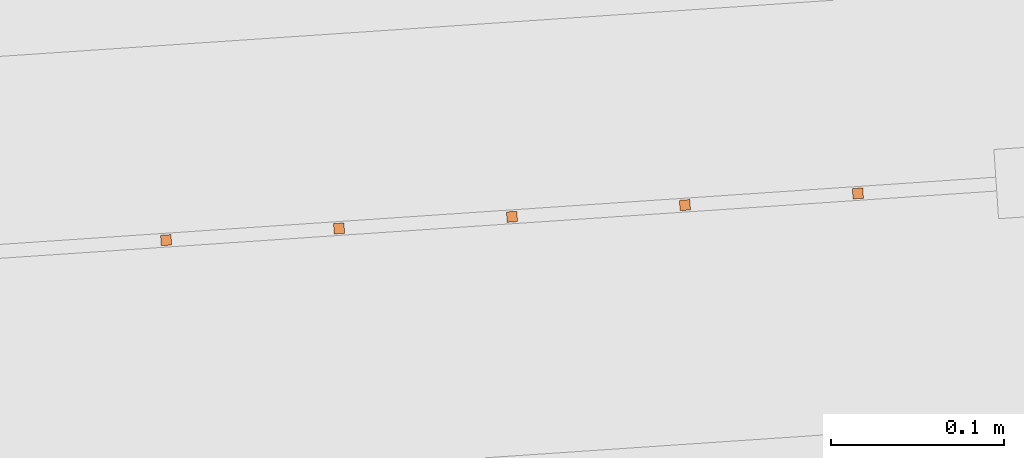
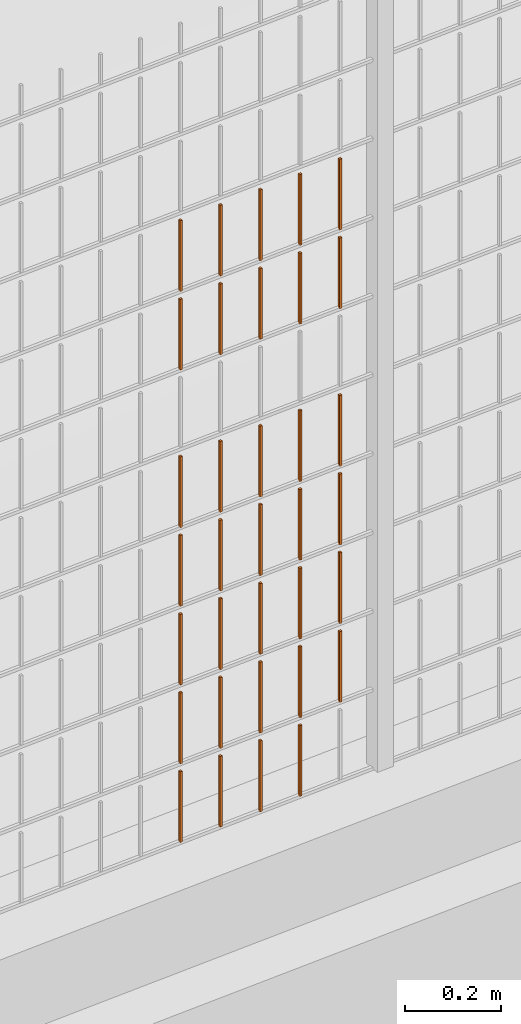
# One storey, part 173 of 1809: 34 proxies, 1 element without a shape of its own.
"""IFC2X3 building model written with IfcOpenShell, lengths in millimetres."""

from ifc_helpers import new_model, entity, si_unit, converted_unit, derived_unit, money_unit, direction, frame, origin_with_axes, place, context, subcontext, project, spatial, faceted_brep, source, transform, mapped, material, type_object, element, aggregate, save


model = new_model("IFC2X3")

# Units and contexts
model_context = context("Model", 3, precision=0.01, world=origin_with_axes(), true_north=direction((0.0, 1.0)))
body_context = subcontext(model_context, "Body", "Model", "MODEL_VIEW")
ifc_project = project(units=[si_unit("LENGTHUNIT", "METRE", prefix="MILLI"), si_unit("AREAUNIT", "SQUARE_METRE"), si_unit("VOLUMEUNIT", "CUBIC_METRE"), converted_unit("PLANEANGLEUNIT", "DEGREE", entity("IfcPlaneAngleMeasure", 0.0174532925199), si_unit("PLANEANGLEUNIT", "RADIAN"), dimensions=[0, 0, 0, 0, 0, 0, 0]), si_unit("SOLIDANGLEUNIT", "STERADIAN"), money_unit("EUR"), converted_unit("TIMEUNIT", "Year", entity("IfcTimeMeasure", 31556926.0), si_unit("TIMEUNIT", "SECOND"), dimensions=[0, 0, 1, 0, 0, 0, 0]), si_unit("MASSUNIT", "GRAM", prefix="KILO"), si_unit("THERMODYNAMICTEMPERATUREUNIT", "DEGREE_CELSIUS"), si_unit("LUMINOUSINTENSITYUNIT", "LUMEN"), si_unit("ENERGYUNIT", "JOULE", prefix="MEGA"), derived_unit("THERMALCONDUCTANCEUNIT", [(si_unit("POWERUNIT", "WATT"), 1), (si_unit("LENGTHUNIT", "METRE"), -1), (si_unit("THERMODYNAMICTEMPERATUREUNIT", "KELVIN"), -1)]), derived_unit("SPECIFICHEATCAPACITYUNIT", [(si_unit("ENERGYUNIT", "JOULE"), 1), (si_unit("MASSUNIT", "GRAM", prefix="KILO"), -1), (si_unit("THERMODYNAMICTEMPERATUREUNIT", "KELVIN"), -1)]), derived_unit("MASSDENSITYUNIT", [(si_unit("MASSUNIT", "GRAM", prefix="KILO"), 1), (si_unit("VOLUMEUNIT", "CUBIC_METRE"), -1)])], contexts=[model_context])

# Site, building, storey
site_placement = place(None, origin_with_axes())
site = spatial("IfcSite", under=ifc_project, at=site_placement, Name="Politse- ja Piirivalveameti ning Päästeameti ühishoone", CompositionType="ELEMENT")
building_placement = place(site_placement, origin_with_axes())
building = spatial("IfcBuilding", under=site, at=building_placement, Name="Politse- ja Piirivalveameti ning Päästeameti ühishoone", CompositionType="ELEMENT")
storey_placement = place(building_placement, origin_with_axes())
storey = spatial("IfcBuildingStorey", under=building, at=storey_placement, Name="Esimene korrus", CompositionType="ELEMENT", Elevation=0.0)

# Proxies
building_element_proxy_type_1 = type_object("IfcBuildingElementProxyType", Name="Railing Type", PredefinedType="NOTDEFINED")
proxy_1_placement = place(storey_placement, frame((89252.001212, -29183.4766571, 203.661247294), z_axis=(0.0, 0.0, 1.0), x_axis=(1.0, 0.0, 0.0)))
proxy_1 = element("IfcBuildingElementProxy", 1, at=proxy_1_placement, inside=storey, type_object=building_element_proxy_type_1, Name="PIIRDEAED")
ifc_material = material(Name="ET-03_Raud")
building_element_proxy_type_2 = type_object("IfcBuildingElementProxyType", Name="IfcBuildingElementProxy", PredefinedType="NOTDEFINED")
shared_shape_1 = source(origin_with_axes(), body_context, "Body", "Brep", [
    faceted_brep([(3.0, 3.0, -0.000752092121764), (-3.0, 3.0, -0.000752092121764), (-3.0, 3.0, 179.99926046), (3.0, 3.0, 179.99926046), (3.0, -3.0, 0.000752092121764), (-3.0, -3.0, 0.000752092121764), (-3.0, -3.0, 180.000764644), (3.0, -3.0, 180.000764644)], [[[0, 1, 2, 3]], [[0, 4, 5, 1]], [[1, 5, 6, 2]], [[3, 2, 6, 7]], [[4, 0, 3, 7]], [[5, 4, 7, 6]]]),
])
proxy_2_placement = place(proxy_1_placement, frame((-74756.3444096, -22347.2837062, 1208.4504616), z_axis=(0.0, 0.0, 1.0), x_axis=(1.0, 0.0, 0.0)))
proxy_2 = element("IfcBuildingElementProxy", 2, at=proxy_2_placement, type_object=building_element_proxy_type_2, material=ifc_material, Name="BALUSTER - 001", context=body_context, shape_type="MappedRepresentation", body=[
    mapped(shared_shape_1, transform((0.0, 0.0, 0.0), x_axis=(-0.0673926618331, 0.997726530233, 0.0), y_axis=(-0.997726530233, -0.0673926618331, 0.0), z_axis=(0.0, 0.0, 1.0))),
])
shared_shape_2 = source(origin_with_axes(), body_context, "Body", "Brep", [
    faceted_brep([(3.0, 3.0, -0.000752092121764), (-3.0, 3.0, -0.000752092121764), (-3.0, 3.0, 179.99926046), (3.0, 3.0, 179.99926046), (3.0, -3.0, 0.000752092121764), (-3.0, -3.0, 0.000752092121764), (-3.0, -3.0, 180.000764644), (3.0, -3.0, 180.000764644)], [[[0, 1, 2, 3]], [[0, 4, 5, 1]], [[1, 5, 6, 2]], [[3, 2, 6, 7]], [[4, 0, 3, 7]], [[5, 4, 7, 6]]]),
])
proxy_3_placement = place(proxy_1_placement, frame((-74756.3444096, -22347.2837062, 808.4504616), z_axis=(0.0, 0.0, 1.0), x_axis=(1.0, 0.0, 0.0)))
proxy_3 = element("IfcBuildingElementProxy", 3, at=proxy_3_placement, type_object=building_element_proxy_type_2, material=ifc_material, Name="BALUSTER - 001", context=body_context, shape_type="MappedRepresentation", body=[
    mapped(shared_shape_2, transform((0.0, 0.0, 0.0), x_axis=(-0.0673926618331, 0.997726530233, 0.0), y_axis=(-0.997726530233, -0.0673926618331, 0.0), z_axis=(0.0, 0.0, 1.0))),
])
proxy_4_placement = place(proxy_1_placement, frame((-74955.8897157, -22360.7622386, 1208.40032212), z_axis=(0.0, 0.0, 1.0), x_axis=(1.0, 0.0, 0.0)))
proxy_4 = element("IfcBuildingElementProxy", 4, at=proxy_4_placement, type_object=building_element_proxy_type_2, material=ifc_material, Name="BALUSTER - 001", context=body_context, shape_type="MappedRepresentation", body=[
    mapped(shared_shape_2, transform((0.0, 0.0, 0.0), x_axis=(-0.0673926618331, 0.997726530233, 0.0), y_axis=(-0.997726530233, -0.0673926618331, 0.0), z_axis=(0.0, 0.0, 1.0))),
])
shared_shape_3 = source(origin_with_axes(), body_context, "Body", "Brep", [
    faceted_brep([(3.0, 3.0, -0.000752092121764), (-3.0, 3.0, -0.000752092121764), (-3.0, 3.0, 179.99926046), (3.0, 3.0, 179.99926046), (3.0, -3.0, 0.000752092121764), (-3.0, -3.0, 0.000752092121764), (-3.0, -3.0, 180.000764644), (3.0, -3.0, 180.000764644)], [[[0, 1, 2, 3]], [[0, 4, 5, 1]], [[1, 5, 6, 2]], [[3, 2, 6, 7]], [[4, 0, 3, 7]], [[5, 4, 7, 6]]]),
])
proxy_5_placement = place(proxy_1_placement, frame((-74756.3444096, -22347.2837062, 208.4504616), z_axis=(0.0, 0.0, 1.0), x_axis=(1.0, 0.0, 0.0)))
proxy_5 = element("IfcBuildingElementProxy", 5, at=proxy_5_placement, type_object=building_element_proxy_type_2, material=ifc_material, Name="BALUSTER - 001", context=body_context, shape_type="MappedRepresentation", body=[
    mapped(shared_shape_3, transform((0.0, 0.0, 0.0), x_axis=(-0.0673926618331, 0.997726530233, 0.0), y_axis=(-0.997726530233, -0.0673926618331, 0.0), z_axis=(0.0, 0.0, 1.0))),
])
proxy_6_placement = place(proxy_1_placement, frame((-74756.3444096, -22347.2837062, 408.4504616), z_axis=(0.0, 0.0, 1.0), x_axis=(1.0, 0.0, 0.0)))
proxy_6 = element("IfcBuildingElementProxy", 6, at=proxy_6_placement, type_object=building_element_proxy_type_2, material=ifc_material, Name="BALUSTER - 001", context=body_context, shape_type="MappedRepresentation", body=[
    mapped(shared_shape_3, transform((0.0, 0.0, 0.0), x_axis=(-0.0673926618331, 0.997726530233, 0.0), y_axis=(-0.997726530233, -0.0673926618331, 0.0), z_axis=(0.0, 0.0, 1.0))),
])
shared_shape_4 = source(origin_with_axes(), body_context, "Body", "Brep", [
    faceted_brep([(3.0, 3.0, -0.000752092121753), (-3.0, 3.0, -0.000752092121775), (-3.0, 3.0, 179.99926046), (3.0, 3.0, 179.99926046), (3.0, -3.0, 0.000752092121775), (-3.0, -3.0, 0.000752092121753), (-3.0, -3.0, 180.000764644), (3.0, -3.0, 180.000764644)], [[[0, 1, 2, 3]], [[0, 4, 5, 1]], [[1, 5, 6, 2]], [[3, 2, 6, 7]], [[4, 0, 3, 7]], [[5, 4, 7, 6]]]),
])
proxy_7_placement = place(proxy_1_placement, frame((-75055.6623687, -22367.5015048, 8.37525238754), z_axis=(0.0, 0.0, 1.0), x_axis=(1.0, 0.0, 0.0)))
proxy_7 = element("IfcBuildingElementProxy", 7, at=proxy_7_placement, type_object=building_element_proxy_type_2, material=ifc_material, Name="BALUSTER - 001", context=body_context, shape_type="MappedRepresentation", body=[
    mapped(shared_shape_4, transform((0.0, 0.0, 0.0), x_axis=(-0.0673926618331, 0.997726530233, 0.0), y_axis=(-0.997726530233, -0.0673926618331, 0.0), z_axis=(0.0, 0.0, 1.0))),
])
shared_shape_5 = source(origin_with_axes(), body_context, "Body", "Brep", [
    faceted_brep([(3.0, 3.0, -0.000752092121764), (-3.0, 3.0, -0.000752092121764), (-3.0, 3.0, 179.99926046), (3.0, 3.0, 179.99926046), (3.0, -3.0, 0.000752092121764), (-3.0, -3.0, 0.000752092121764), (-3.0, -3.0, 180.000764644), (3.0, -3.0, 180.000764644)], [[[0, 1, 2, 3]], [[0, 4, 5, 1]], [[1, 5, 6, 2]], [[3, 2, 6, 7]], [[4, 0, 3, 7]], [[5, 4, 7, 6]]]),
])
proxy_8_placement = place(proxy_1_placement, frame((-75155.4350217, -22374.2407709, 8.35018265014), z_axis=(0.0, 0.0, 1.0), x_axis=(1.0, 0.0, 0.0)))
proxy_8 = element("IfcBuildingElementProxy", 8, at=proxy_8_placement, type_object=building_element_proxy_type_2, material=ifc_material, Name="BALUSTER - 001", context=body_context, shape_type="MappedRepresentation", body=[
    mapped(shared_shape_5, transform((0.0, 0.0, 0.0), x_axis=(-0.0673926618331, 0.997726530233, 0.0), y_axis=(-0.997726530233, -0.0673926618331, 0.0), z_axis=(0.0, 0.0, 1.0))),
])
shared_shape_6 = source(origin_with_axes(), body_context, "Body", "Brep", [
    faceted_brep([(3.0, 3.0, -0.000752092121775), (-3.0, 3.0, -0.000752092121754), (-3.0, 3.0, 179.99926046), (3.0, 3.0, 179.99926046), (3.0, -3.0, 0.000752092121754), (-3.0, -3.0, 0.000752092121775), (-3.0, -3.0, 180.000764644), (3.0, -3.0, 180.000764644)], [[[0, 1, 2, 3]], [[0, 4, 5, 1]], [[1, 5, 6, 2]], [[3, 2, 6, 7]], [[4, 0, 3, 7]], [[5, 4, 7, 6]]]),
])
proxy_9_placement = place(proxy_1_placement, frame((-74856.1170627, -22354.0229724, 408.425391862), z_axis=(0.0, 0.0, 1.0), x_axis=(1.0, 0.0, 0.0)))
proxy_9 = element("IfcBuildingElementProxy", 9, at=proxy_9_placement, type_object=building_element_proxy_type_2, material=ifc_material, Name="BALUSTER - 001", context=body_context, shape_type="MappedRepresentation", body=[
    mapped(shared_shape_6, transform((0.0, 0.0, 0.0), x_axis=(-0.0673926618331, 0.997726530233, 0.0), y_axis=(-0.997726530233, -0.0673926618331, 0.0), z_axis=(0.0, 0.0, 1.0))),
])
proxy_10_placement = place(proxy_1_placement, frame((-74856.1170627, -22354.0229724, 608.425391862), z_axis=(0.0, 0.0, 1.0), x_axis=(1.0, 0.0, 0.0)))
proxy_10 = element("IfcBuildingElementProxy", 10, at=proxy_10_placement, type_object=building_element_proxy_type_2, material=ifc_material, Name="BALUSTER - 001", context=body_context, shape_type="MappedRepresentation", body=[
    mapped(shared_shape_6, transform((0.0, 0.0, 0.0), x_axis=(-0.0673926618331, 0.997726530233, 0.0), y_axis=(-0.997726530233, -0.0673926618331, 0.0), z_axis=(0.0, 0.0, 1.0))),
])
shared_shape_7 = source(origin_with_axes(), body_context, "Body", "Brep", [
    faceted_brep([(3.0, 3.0, -0.000752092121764), (-3.0, 3.0, -0.000752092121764), (-3.0, 3.0, 179.99926046), (3.0, 3.0, 179.99926046), (3.0, -3.0, 0.000752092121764), (-3.0, -3.0, 0.000752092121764), (-3.0, -3.0, 180.000764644), (3.0, -3.0, 180.000764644)], [[[0, 1, 2, 3]], [[0, 4, 5, 1]], [[1, 5, 6, 2]], [[3, 2, 6, 7]], [[4, 0, 3, 7]], [[5, 4, 7, 6]]]),
])
proxy_11_placement = place(proxy_1_placement, frame((-75155.4350217, -22374.2407709, 408.35018265), z_axis=(0.0, 0.0, 1.0), x_axis=(1.0, 0.0, 0.0)))
proxy_11 = element("IfcBuildingElementProxy", 11, at=proxy_11_placement, type_object=building_element_proxy_type_2, material=ifc_material, Name="BALUSTER - 001", context=body_context, shape_type="MappedRepresentation", body=[
    mapped(shared_shape_7, transform((0.0, 0.0, 0.0), x_axis=(-0.0673926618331, 0.997726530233, 0.0), y_axis=(-0.997726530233, -0.0673926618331, 0.0), z_axis=(0.0, 0.0, 1.0))),
])
shared_shape_8 = source(origin_with_axes(), body_context, "Body", "Brep", [
    faceted_brep([(3.0, 3.0, -0.000752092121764), (-3.0, 3.0, -0.000752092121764), (-3.0, 3.0, 179.99926046), (3.0, 3.0, 179.99926046), (3.0, -3.0, 0.000752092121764), (-3.0, -3.0, 0.000752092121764), (-3.0, -3.0, 180.000764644), (3.0, -3.0, 180.000764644)], [[[0, 1, 2, 3]], [[0, 4, 5, 1]], [[1, 5, 6, 2]], [[3, 2, 6, 7]], [[4, 0, 3, 7]], [[5, 4, 7, 6]]]),
])
proxy_12_placement = place(proxy_1_placement, frame((-75155.4350217, -22374.2407709, 208.35018265), z_axis=(0.0, 0.0, 1.0), x_axis=(1.0, 0.0, 0.0)))
proxy_12 = element("IfcBuildingElementProxy", 12, at=proxy_12_placement, type_object=building_element_proxy_type_2, material=ifc_material, Name="BALUSTER - 001", context=body_context, shape_type="MappedRepresentation", body=[
    mapped(shared_shape_8, transform((0.0, 0.0, 0.0), x_axis=(-0.0673926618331, 0.997726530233, 0.0), y_axis=(-0.997726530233, -0.0673926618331, 0.0), z_axis=(0.0, 0.0, 1.0))),
])
shared_shape_9 = source(origin_with_axes(), body_context, "Body", "Brep", [
    faceted_brep([(3.0, 3.0, -0.000752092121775), (-3.0, 3.0, -0.000752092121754), (-3.0, 3.0, 179.99926046), (3.0, 3.0, 179.99926046), (3.0, -3.0, 0.000752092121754), (-3.0, -3.0, 0.000752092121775), (-3.0, -3.0, 180.000764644), (3.0, -3.0, 180.000764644)], [[[0, 1, 2, 3]], [[0, 4, 5, 1]], [[1, 5, 6, 2]], [[3, 2, 6, 7]], [[4, 0, 3, 7]], [[5, 4, 7, 6]]]),
])
proxy_13_placement = place(proxy_1_placement, frame((-74856.1170627, -22354.0229724, 208.425391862), z_axis=(0.0, 0.0, 1.0), x_axis=(1.0, 0.0, 0.0)))
proxy_13 = element("IfcBuildingElementProxy", 13, at=proxy_13_placement, type_object=building_element_proxy_type_2, material=ifc_material, Name="BALUSTER - 001", context=body_context, shape_type="MappedRepresentation", body=[
    mapped(shared_shape_9, transform((0.0, 0.0, 0.0), x_axis=(-0.0673926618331, 0.997726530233, 0.0), y_axis=(-0.997726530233, -0.0673926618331, 0.0), z_axis=(0.0, 0.0, 1.0))),
])
shared_shape_10 = source(origin_with_axes(), body_context, "Body", "Brep", [
    faceted_brep([(3.0, 3.0, -0.000752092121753), (-3.0, 3.0, -0.000752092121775), (-3.0, 3.0, 179.99926046), (3.0, 3.0, 179.99926046), (3.0, -3.0, 0.000752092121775), (-3.0, -3.0, 0.000752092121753), (-3.0, -3.0, 180.000764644), (3.0, -3.0, 180.000764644)], [[[0, 1, 2, 3]], [[0, 4, 5, 1]], [[1, 5, 6, 2]], [[3, 2, 6, 7]], [[4, 0, 3, 7]], [[5, 4, 7, 6]]]),
])
proxy_14_placement = place(proxy_1_placement, frame((-75055.6623687, -22367.5015048, 408.375252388), z_axis=(0.0, 0.0, 1.0), x_axis=(1.0, 0.0, 0.0)))
proxy_14 = element("IfcBuildingElementProxy", 14, at=proxy_14_placement, type_object=building_element_proxy_type_2, material=ifc_material, Name="BALUSTER - 001", context=body_context, shape_type="MappedRepresentation", body=[
    mapped(shared_shape_10, transform((0.0, 0.0, 0.0), x_axis=(-0.0673926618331, 0.997726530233, 0.0), y_axis=(-0.997726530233, -0.0673926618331, 0.0), z_axis=(0.0, 0.0, 1.0))),
])
shared_shape_11 = source(origin_with_axes(), body_context, "Body", "Brep", [
    faceted_brep([(3.0, 3.0, -0.000752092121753), (-3.0, 3.0, -0.000752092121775), (-3.0, 3.0, 179.99926046), (3.0, 3.0, 179.99926046), (3.0, -3.0, 0.000752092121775), (-3.0, -3.0, 0.000752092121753), (-3.0, -3.0, 180.000764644), (3.0, -3.0, 180.000764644)], [[[0, 1, 2, 3]], [[0, 4, 5, 1]], [[1, 5, 6, 2]], [[3, 2, 6, 7]], [[4, 0, 3, 7]], [[5, 4, 7, 6]]]),
])
proxy_15_placement = place(proxy_1_placement, frame((-74955.8897157, -22360.7622386, 808.400322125), z_axis=(0.0, 0.0, 1.0), x_axis=(1.0, 0.0, 0.0)))
proxy_15 = element("IfcBuildingElementProxy", 15, at=proxy_15_placement, type_object=building_element_proxy_type_2, material=ifc_material, Name="BALUSTER - 001", context=body_context, shape_type="MappedRepresentation", body=[
    mapped(shared_shape_11, transform((0.0, 0.0, 0.0), x_axis=(-0.0673926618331, 0.997726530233, 0.0), y_axis=(-0.997726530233, -0.0673926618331, 0.0), z_axis=(0.0, 0.0, 1.0))),
])
proxy_16_placement = place(proxy_1_placement, frame((-75055.6623687, -22367.5015048, 1208.37525239), z_axis=(0.0, 0.0, 1.0), x_axis=(1.0, 0.0, 0.0)))
proxy_16 = element("IfcBuildingElementProxy", 16, at=proxy_16_placement, type_object=building_element_proxy_type_2, material=ifc_material, Name="BALUSTER - 001", context=body_context, shape_type="MappedRepresentation", body=[
    mapped(shared_shape_11, transform((0.0, 0.0, 0.0), x_axis=(-0.0673926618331, 0.997726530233, 0.0), y_axis=(-0.997726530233, -0.0673926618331, 0.0), z_axis=(0.0, 0.0, 1.0))),
])
shared_shape_12 = source(origin_with_axes(), body_context, "Body", "Brep", [
    faceted_brep([(3.0, 3.0, -0.000752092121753), (-3.0, 3.0, -0.000752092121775), (-3.0, 3.0, 179.99926046), (3.0, 3.0, 179.99926046), (3.0, -3.0, 0.000752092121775), (-3.0, -3.0, 0.000752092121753), (-3.0, -3.0, 180.000764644), (3.0, -3.0, 180.000764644)], [[[0, 1, 2, 3]], [[0, 4, 5, 1]], [[1, 5, 6, 2]], [[3, 2, 6, 7]], [[4, 0, 3, 7]], [[5, 4, 7, 6]]]),
])
proxy_17_placement = place(proxy_1_placement, frame((-75055.6623687, -22367.5015048, 1408.37525239), z_axis=(0.0, 0.0, 1.0), x_axis=(1.0, 0.0, 0.0)))
proxy_17 = element("IfcBuildingElementProxy", 17, at=proxy_17_placement, type_object=building_element_proxy_type_2, material=ifc_material, Name="BALUSTER - 001", context=body_context, shape_type="MappedRepresentation", body=[
    mapped(shared_shape_12, transform((0.0, 0.0, 0.0), x_axis=(-0.0673926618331, 0.997726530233, 0.0), y_axis=(-0.997726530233, -0.0673926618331, 0.0), z_axis=(0.0, 0.0, 1.0))),
])
shared_shape_13 = source(origin_with_axes(), body_context, "Body", "Brep", [
    faceted_brep([(3.0, 3.0, -0.000752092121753), (-3.0, 3.0, -0.000752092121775), (-3.0, 3.0, 179.99926046), (3.0, 3.0, 179.99926046), (3.0, -3.0, 0.000752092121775), (-3.0, -3.0, 0.000752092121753), (-3.0, -3.0, 180.000764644), (3.0, -3.0, 180.000764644)], [[[0, 1, 2, 3]], [[0, 4, 5, 1]], [[1, 5, 6, 2]], [[3, 2, 6, 7]], [[4, 0, 3, 7]], [[5, 4, 7, 6]]]),
])
proxy_18_placement = place(proxy_1_placement, frame((-75055.6623687, -22367.5015048, 808.375252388), z_axis=(0.0, 0.0, 1.0), x_axis=(1.0, 0.0, 0.0)))
proxy_18 = element("IfcBuildingElementProxy", 18, at=proxy_18_placement, type_object=building_element_proxy_type_2, material=ifc_material, Name="BALUSTER - 001", context=body_context, shape_type="MappedRepresentation", body=[
    mapped(shared_shape_13, transform((0.0, 0.0, 0.0), x_axis=(-0.0673926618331, 0.997726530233, 0.0), y_axis=(-0.997726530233, -0.0673926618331, 0.0), z_axis=(0.0, 0.0, 1.0))),
])
shared_shape_14 = source(origin_with_axes(), body_context, "Body", "Brep", [
    faceted_brep([(3.0, 3.0, -0.000752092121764), (-3.0, 3.0, -0.000752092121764), (-3.0, 3.0, 179.99926046), (3.0, 3.0, 179.99926046), (3.0, -3.0, 0.000752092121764), (-3.0, -3.0, 0.000752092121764), (-3.0, -3.0, 180.000764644), (3.0, -3.0, 180.000764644)], [[[0, 1, 2, 3]], [[0, 4, 5, 1]], [[1, 5, 6, 2]], [[3, 2, 6, 7]], [[4, 0, 3, 7]], [[5, 4, 7, 6]]]),
])
proxy_19_placement = place(proxy_1_placement, frame((-75155.4350217, -22374.2407709, 608.35018265), z_axis=(0.0, 0.0, 1.0), x_axis=(1.0, 0.0, 0.0)))
proxy_19 = element("IfcBuildingElementProxy", 19, at=proxy_19_placement, type_object=building_element_proxy_type_2, material=ifc_material, Name="BALUSTER - 001", context=body_context, shape_type="MappedRepresentation", body=[
    mapped(shared_shape_14, transform((0.0, 0.0, 0.0), x_axis=(-0.0673926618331, 0.997726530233, 0.0), y_axis=(-0.997726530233, -0.0673926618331, 0.0), z_axis=(0.0, 0.0, 1.0))),
])
shared_shape_15 = source(origin_with_axes(), body_context, "Body", "Brep", [
    faceted_brep([(3.0, 3.0, -0.000752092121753), (-3.0, 3.0, -0.000752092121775), (-3.0, 3.0, 179.99926046), (3.0, 3.0, 179.99926046), (3.0, -3.0, 0.000752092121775), (-3.0, -3.0, 0.000752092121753), (-3.0, -3.0, 180.000764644), (3.0, -3.0, 180.000764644)], [[[0, 1, 2, 3]], [[0, 4, 5, 1]], [[1, 5, 6, 2]], [[3, 2, 6, 7]], [[4, 0, 3, 7]], [[5, 4, 7, 6]]]),
])
proxy_20_placement = place(proxy_1_placement, frame((-74955.8897157, -22360.7622386, 8.40032212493), z_axis=(0.0, 0.0, 1.0), x_axis=(1.0, 0.0, 0.0)))
proxy_20 = element("IfcBuildingElementProxy", 20, at=proxy_20_placement, type_object=building_element_proxy_type_2, material=ifc_material, Name="BALUSTER - 001", context=body_context, shape_type="MappedRepresentation", body=[
    mapped(shared_shape_15, transform((0.0, 0.0, 0.0), x_axis=(-0.0673926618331, 0.997726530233, 0.0), y_axis=(-0.997726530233, -0.0673926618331, 0.0), z_axis=(0.0, 0.0, 1.0))),
])
shared_shape_16 = source(origin_with_axes(), body_context, "Body", "Brep", [
    faceted_brep([(3.0, 3.0, -0.000752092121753), (-3.0, 3.0, -0.000752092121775), (-3.0, 3.0, 179.99926046), (3.0, 3.0, 179.99926046), (3.0, -3.0, 0.000752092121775), (-3.0, -3.0, 0.000752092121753), (-3.0, -3.0, 180.000764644), (3.0, -3.0, 180.000764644)], [[[0, 1, 2, 3]], [[0, 4, 5, 1]], [[1, 5, 6, 2]], [[3, 2, 6, 7]], [[4, 0, 3, 7]], [[5, 4, 7, 6]]]),
])
proxy_21_placement = place(proxy_1_placement, frame((-74955.8897157, -22360.7622386, 408.400322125), z_axis=(0.0, 0.0, 1.0), x_axis=(1.0, 0.0, 0.0)))
proxy_21 = element("IfcBuildingElementProxy", 21, at=proxy_21_placement, type_object=building_element_proxy_type_2, material=ifc_material, Name="BALUSTER - 001", context=body_context, shape_type="MappedRepresentation", body=[
    mapped(shared_shape_16, transform((0.0, 0.0, 0.0), x_axis=(-0.0673926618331, 0.997726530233, 0.0), y_axis=(-0.997726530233, -0.0673926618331, 0.0), z_axis=(0.0, 0.0, 1.0))),
])
proxy_22_placement = place(proxy_1_placement, frame((-74955.8897157, -22360.7622386, 608.400322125), z_axis=(0.0, 0.0, 1.0), x_axis=(1.0, 0.0, 0.0)))
proxy_22 = element("IfcBuildingElementProxy", 22, at=proxy_22_placement, type_object=building_element_proxy_type_2, material=ifc_material, Name="BALUSTER - 001", context=body_context, shape_type="MappedRepresentation", body=[
    mapped(shared_shape_16, transform((0.0, 0.0, 0.0), x_axis=(-0.0673926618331, 0.997726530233, 0.0), y_axis=(-0.997726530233, -0.0673926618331, 0.0), z_axis=(0.0, 0.0, 1.0))),
])
proxy_23_placement = place(proxy_1_placement, frame((-75055.6623687, -22367.5015048, 608.375252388), z_axis=(0.0, 0.0, 1.0), x_axis=(1.0, 0.0, 0.0)))
proxy_23 = element("IfcBuildingElementProxy", 23, at=proxy_23_placement, type_object=building_element_proxy_type_2, material=ifc_material, Name="BALUSTER - 001", context=body_context, shape_type="MappedRepresentation", body=[
    mapped(shared_shape_16, transform((0.0, 0.0, 0.0), x_axis=(-0.0673926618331, 0.997726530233, 0.0), y_axis=(-0.997726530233, -0.0673926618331, 0.0), z_axis=(0.0, 0.0, 1.0))),
])
shared_shape_17 = source(origin_with_axes(), body_context, "Body", "Brep", [
    faceted_brep([(3.0, 3.0, -0.000752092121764), (-3.0, 3.0, -0.000752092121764), (-3.0, 3.0, 179.99926046), (3.0, 3.0, 179.99926046), (3.0, -3.0, 0.000752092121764), (-3.0, -3.0, 0.000752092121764), (-3.0, -3.0, 180.000764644), (3.0, -3.0, 180.000764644)], [[[0, 1, 2, 3]], [[0, 4, 5, 1]], [[1, 5, 6, 2]], [[3, 2, 6, 7]], [[4, 0, 3, 7]], [[5, 4, 7, 6]]]),
])
proxy_24_placement = place(proxy_1_placement, frame((-75155.4350217, -22374.2407709, 808.35018265), z_axis=(0.0, 0.0, 1.0), x_axis=(1.0, 0.0, 0.0)))
proxy_24 = element("IfcBuildingElementProxy", 24, at=proxy_24_placement, type_object=building_element_proxy_type_2, material=ifc_material, Name="BALUSTER - 001", context=body_context, shape_type="MappedRepresentation", body=[
    mapped(shared_shape_17, transform((0.0, 0.0, 0.0), x_axis=(-0.0673926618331, 0.997726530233, 0.0), y_axis=(-0.997726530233, -0.0673926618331, 0.0), z_axis=(0.0, 0.0, 1.0))),
])
shared_shape_18 = source(origin_with_axes(), body_context, "Body", "Brep", [
    faceted_brep([(3.0, 3.0, -0.000752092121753), (-3.0, 3.0, -0.000752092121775), (-3.0, 3.0, 179.99926046), (3.0, 3.0, 179.99926046), (3.0, -3.0, 0.000752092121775), (-3.0, -3.0, 0.000752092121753), (-3.0, -3.0, 180.000764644), (3.0, -3.0, 180.000764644)], [[[0, 1, 2, 3]], [[0, 4, 5, 1]], [[1, 5, 6, 2]], [[3, 2, 6, 7]], [[4, 0, 3, 7]], [[5, 4, 7, 6]]]),
])
proxy_25_placement = place(proxy_1_placement, frame((-74955.8897157, -22360.7622386, 208.400322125), z_axis=(0.0, 0.0, 1.0), x_axis=(1.0, 0.0, 0.0)))
proxy_25 = element("IfcBuildingElementProxy", 25, at=proxy_25_placement, type_object=building_element_proxy_type_2, material=ifc_material, Name="BALUSTER - 001", context=body_context, shape_type="MappedRepresentation", body=[
    mapped(shared_shape_18, transform((0.0, 0.0, 0.0), x_axis=(-0.0673926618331, 0.997726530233, 0.0), y_axis=(-0.997726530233, -0.0673926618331, 0.0), z_axis=(0.0, 0.0, 1.0))),
])
shared_shape_19 = source(origin_with_axes(), body_context, "Body", "Brep", [
    faceted_brep([(3.0, 3.0, -0.000752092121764), (-3.0, 3.0, -0.000752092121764), (-3.0, 3.0, 179.99926046), (3.0, 3.0, 179.99926046), (3.0, -3.0, 0.000752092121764), (-3.0, -3.0, 0.000752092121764), (-3.0, -3.0, 180.000764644), (3.0, -3.0, 180.000764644)], [[[0, 1, 2, 3]], [[0, 4, 5, 1]], [[1, 5, 6, 2]], [[3, 2, 6, 7]], [[4, 0, 3, 7]], [[5, 4, 7, 6]]]),
])
proxy_26_placement = place(proxy_1_placement, frame((-74756.3444096, -22347.2837062, 608.4504616), z_axis=(0.0, 0.0, 1.0), x_axis=(1.0, 0.0, 0.0)))
proxy_26 = element("IfcBuildingElementProxy", 26, at=proxy_26_placement, type_object=building_element_proxy_type_2, material=ifc_material, Name="BALUSTER - 001", context=body_context, shape_type="MappedRepresentation", body=[
    mapped(shared_shape_19, transform((0.0, 0.0, 0.0), x_axis=(-0.0673926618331, 0.997726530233, 0.0), y_axis=(-0.997726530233, -0.0673926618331, 0.0), z_axis=(0.0, 0.0, 1.0))),
])
shared_shape_20 = source(origin_with_axes(), body_context, "Body", "Brep", [
    faceted_brep([(3.0, 3.0, -0.000752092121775), (-3.0, 3.0, -0.000752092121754), (-3.0, 3.0, 179.99926046), (3.0, 3.0, 179.99926046), (3.0, -3.0, 0.000752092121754), (-3.0, -3.0, 0.000752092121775), (-3.0, -3.0, 180.000764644), (3.0, -3.0, 180.000764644)], [[[0, 1, 2, 3]], [[0, 4, 5, 1]], [[1, 5, 6, 2]], [[3, 2, 6, 7]], [[4, 0, 3, 7]], [[5, 4, 7, 6]]]),
])
proxy_27_placement = place(proxy_1_placement, frame((-74856.1170627, -22354.0229724, 808.425391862), z_axis=(0.0, 0.0, 1.0), x_axis=(1.0, 0.0, 0.0)))
proxy_27 = element("IfcBuildingElementProxy", 27, at=proxy_27_placement, type_object=building_element_proxy_type_2, material=ifc_material, Name="BALUSTER - 001", context=body_context, shape_type="MappedRepresentation", body=[
    mapped(shared_shape_20, transform((0.0, 0.0, 0.0), x_axis=(-0.0673926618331, 0.997726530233, 0.0), y_axis=(-0.997726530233, -0.0673926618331, 0.0), z_axis=(0.0, 0.0, 1.0))),
])
proxy_28_placement = place(proxy_1_placement, frame((-74856.1170627, -22354.0229724, 1208.42539186), z_axis=(0.0, 0.0, 1.0), x_axis=(1.0, 0.0, 0.0)))
proxy_28 = element("IfcBuildingElementProxy", 28, at=proxy_28_placement, type_object=building_element_proxy_type_2, material=ifc_material, Name="BALUSTER - 001", context=body_context, shape_type="MappedRepresentation", body=[
    mapped(shared_shape_20, transform((0.0, 0.0, 0.0), x_axis=(-0.0673926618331, 0.997726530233, 0.0), y_axis=(-0.997726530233, -0.0673926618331, 0.0), z_axis=(0.0, 0.0, 1.0))),
])
shared_shape_21 = source(origin_with_axes(), body_context, "Body", "Brep", [
    faceted_brep([(3.0, 3.0, -0.000752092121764), (-3.0, 3.0, -0.000752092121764), (-3.0, 3.0, 179.99926046), (3.0, 3.0, 179.99926046), (3.0, -3.0, 0.000752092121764), (-3.0, -3.0, 0.000752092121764), (-3.0, -3.0, 180.000764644), (3.0, -3.0, 180.000764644)], [[[0, 1, 2, 3]], [[0, 4, 5, 1]], [[1, 5, 6, 2]], [[3, 2, 6, 7]], [[4, 0, 3, 7]], [[5, 4, 7, 6]]]),
])
proxy_29_placement = place(proxy_1_placement, frame((-74756.3444096, -22347.2837062, 1408.4504616), z_axis=(0.0, 0.0, 1.0), x_axis=(1.0, 0.0, 0.0)))
proxy_29 = element("IfcBuildingElementProxy", 29, at=proxy_29_placement, type_object=building_element_proxy_type_2, material=ifc_material, Name="BALUSTER - 001", context=body_context, shape_type="MappedRepresentation", body=[
    mapped(shared_shape_21, transform((0.0, 0.0, 0.0), x_axis=(-0.0673926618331, 0.997726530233, 0.0), y_axis=(-0.997726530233, -0.0673926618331, 0.0), z_axis=(0.0, 0.0, 1.0))),
])
shared_shape_22 = source(origin_with_axes(), body_context, "Body", "Brep", [
    faceted_brep([(3.0, 3.0, -0.000752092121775), (-3.0, 3.0, -0.000752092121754), (-3.0, 3.0, 179.99926046), (3.0, 3.0, 179.99926046), (3.0, -3.0, 0.000752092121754), (-3.0, -3.0, 0.000752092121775), (-3.0, -3.0, 180.000764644), (3.0, -3.0, 180.000764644)], [[[0, 1, 2, 3]], [[0, 4, 5, 1]], [[1, 5, 6, 2]], [[3, 2, 6, 7]], [[4, 0, 3, 7]], [[5, 4, 7, 6]]]),
])
proxy_30_placement = place(proxy_1_placement, frame((-74856.1170627, -22354.0229724, 1408.42539186), z_axis=(0.0, 0.0, 1.0), x_axis=(1.0, 0.0, 0.0)))
proxy_30 = element("IfcBuildingElementProxy", 30, at=proxy_30_placement, type_object=building_element_proxy_type_2, material=ifc_material, Name="BALUSTER - 001", context=body_context, shape_type="MappedRepresentation", body=[
    mapped(shared_shape_22, transform((0.0, 0.0, 0.0), x_axis=(-0.0673926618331, 0.997726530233, 0.0), y_axis=(-0.997726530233, -0.0673926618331, 0.0), z_axis=(0.0, 0.0, 1.0))),
])
shared_shape_23 = source(origin_with_axes(), body_context, "Body", "Brep", [
    faceted_brep([(3.0, 3.0, -0.000752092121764), (-3.0, 3.0, -0.000752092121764), (-3.0, 3.0, 179.99926046), (3.0, 3.0, 179.99926046), (3.0, -3.0, 0.000752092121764), (-3.0, -3.0, 0.000752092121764), (-3.0, -3.0, 180.000764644), (3.0, -3.0, 180.000764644)], [[[0, 1, 2, 3]], [[0, 4, 5, 1]], [[1, 5, 6, 2]], [[3, 2, 6, 7]], [[4, 0, 3, 7]], [[5, 4, 7, 6]]]),
])
proxy_31_placement = place(proxy_1_placement, frame((-74955.8897157, -22360.7622386, 1408.40032212), z_axis=(0.0, 0.0, 1.0), x_axis=(1.0, 0.0, 0.0)))
proxy_31 = element("IfcBuildingElementProxy", 31, at=proxy_31_placement, type_object=building_element_proxy_type_2, material=ifc_material, Name="BALUSTER - 001", context=body_context, shape_type="MappedRepresentation", body=[
    mapped(shared_shape_23, transform((0.0, 0.0, 0.0), x_axis=(-0.0673926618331, 0.997726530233, 0.0), y_axis=(-0.997726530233, -0.0673926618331, 0.0), z_axis=(0.0, 0.0, 1.0))),
])
shared_shape_24 = source(origin_with_axes(), body_context, "Body", "Brep", [
    faceted_brep([(3.0, 3.0, -0.000752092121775), (-3.0, 3.0, -0.000752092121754), (-3.0, 3.0, 179.99926046), (3.0, 3.0, 179.99926046), (3.0, -3.0, 0.000752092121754), (-3.0, -3.0, 0.000752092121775), (-3.0, -3.0, 180.000764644), (3.0, -3.0, 180.000764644)], [[[0, 1, 2, 3]], [[0, 4, 5, 1]], [[1, 5, 6, 2]], [[3, 2, 6, 7]], [[4, 0, 3, 7]], [[5, 4, 7, 6]]]),
])
proxy_32_placement = place(proxy_1_placement, frame((-74856.1170627, -22354.0229724, 8.42539186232), z_axis=(0.0, 0.0, 1.0), x_axis=(1.0, 0.0, 0.0)))
proxy_32 = element("IfcBuildingElementProxy", 32, at=proxy_32_placement, type_object=building_element_proxy_type_2, material=ifc_material, Name="BALUSTER - 001", context=body_context, shape_type="MappedRepresentation", body=[
    mapped(shared_shape_24, transform((0.0, 0.0, 0.0), x_axis=(-0.0673926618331, 0.997726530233, 0.0), y_axis=(-0.997726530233, -0.0673926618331, 0.0), z_axis=(0.0, 0.0, 1.0))),
])
shared_shape_25 = source(origin_with_axes(), body_context, "Body", "Brep", [
    faceted_brep([(3.0, 3.0, -0.000752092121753), (-3.0, 3.0, -0.000752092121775), (-3.0, 3.0, 179.99926046), (3.0, 3.0, 179.99926046), (3.0, -3.0, 0.000752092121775), (-3.0, -3.0, 0.000752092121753), (-3.0, -3.0, 180.000764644), (3.0, -3.0, 180.000764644)], [[[0, 1, 2, 3]], [[0, 4, 5, 1]], [[1, 5, 6, 2]], [[3, 2, 6, 7]], [[4, 0, 3, 7]], [[5, 4, 7, 6]]]),
])
proxy_33_placement = place(proxy_1_placement, frame((-75055.6623687, -22367.5015048, 208.375252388), z_axis=(0.0, 0.0, 1.0), x_axis=(1.0, 0.0, 0.0)))
proxy_33 = element("IfcBuildingElementProxy", 33, at=proxy_33_placement, type_object=building_element_proxy_type_2, material=ifc_material, Name="BALUSTER - 001", context=body_context, shape_type="MappedRepresentation", body=[
    mapped(shared_shape_25, transform((0.0, 0.0, 0.0), x_axis=(-0.0673926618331, 0.997726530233, 0.0), y_axis=(-0.997726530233, -0.0673926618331, 0.0), z_axis=(0.0, 0.0, 1.0))),
])
shared_shape_26 = source(origin_with_axes(), body_context, "Body", "Brep", [
    faceted_brep([(3.0, 3.0, -0.000752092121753), (-3.0, 3.0, -0.000752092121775), (-3.0, 3.0, 179.99926046), (3.0, 3.0, 179.99926046), (3.0, -3.0, 0.000752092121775), (-3.0, -3.0, 0.000752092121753), (-3.0, -3.0, 180.000764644), (3.0, -3.0, 180.000764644)], [[[0, 1, 2, 3]], [[0, 4, 5, 1]], [[1, 5, 6, 2]], [[3, 2, 6, 7]], [[4, 0, 3, 7]], [[5, 4, 7, 6]]]),
])
proxy_34_placement = place(proxy_1_placement, frame((-75155.4350217, -22374.2407709, 1208.35018265), z_axis=(0.0, 0.0, 1.0), x_axis=(1.0, 0.0, 0.0)))
proxy_34 = element("IfcBuildingElementProxy", 34, at=proxy_34_placement, type_object=building_element_proxy_type_2, material=ifc_material, Name="BALUSTER - 001", context=body_context, shape_type="MappedRepresentation", body=[
    mapped(shared_shape_26, transform((0.0, 0.0, 0.0), x_axis=(-0.0673926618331, 0.997726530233, 0.0), y_axis=(-0.997726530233, -0.0673926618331, 0.0), z_axis=(0.0, 0.0, 1.0))),
])
shared_shape_27 = source(origin_with_axes(), body_context, "Body", "Brep", [
    faceted_brep([(3.0, 3.0, -0.000752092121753), (-3.0, 3.0, -0.000752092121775), (-3.0, 3.0, 179.99926046), (3.0, 3.0, 179.99926046), (3.0, -3.0, 0.000752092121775), (-3.0, -3.0, 0.000752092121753), (-3.0, -3.0, 180.000764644), (3.0, -3.0, 180.000764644)], [[[0, 1, 2, 3]], [[0, 4, 5, 1]], [[1, 5, 6, 2]], [[3, 2, 6, 7]], [[4, 0, 3, 7]], [[5, 4, 7, 6]]]),
])
proxy_35_placement = place(proxy_1_placement, frame((-75155.4350217, -22374.2407709, 1408.35018265), z_axis=(0.0, 0.0, 1.0), x_axis=(1.0, 0.0, 0.0)))
proxy_35 = element("IfcBuildingElementProxy", 35, at=proxy_35_placement, type_object=building_element_proxy_type_2, material=ifc_material, Name="BALUSTER - 001", context=body_context, shape_type="MappedRepresentation", body=[
    mapped(shared_shape_27, transform((0.0, 0.0, 0.0), x_axis=(-0.0673926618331, 0.997726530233, 0.0), y_axis=(-0.997726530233, -0.0673926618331, 0.0), z_axis=(0.0, 0.0, 1.0))),
])
aggregate(proxy_1, [proxy_32, proxy_20, proxy_7, proxy_8, proxy_5, proxy_13, proxy_25, proxy_33, proxy_12, proxy_6, proxy_9, proxy_21, proxy_14, proxy_11, proxy_26, proxy_10, proxy_22, proxy_23, proxy_19, proxy_3, proxy_27, proxy_15, proxy_18, proxy_24, proxy_2, proxy_28, proxy_4, proxy_16, proxy_34, proxy_29, proxy_30, proxy_31, proxy_17, proxy_35])

save(model, "model.ifc")
